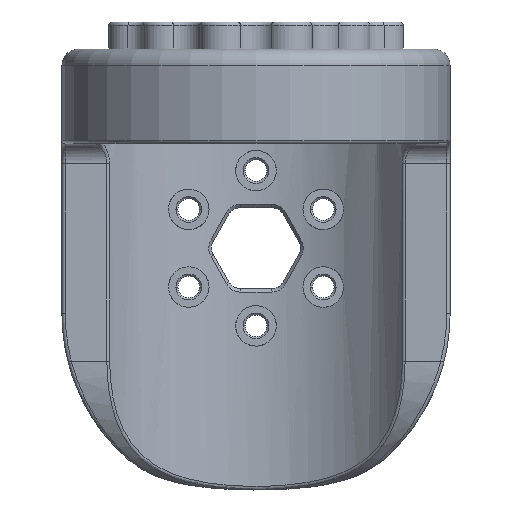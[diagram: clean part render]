
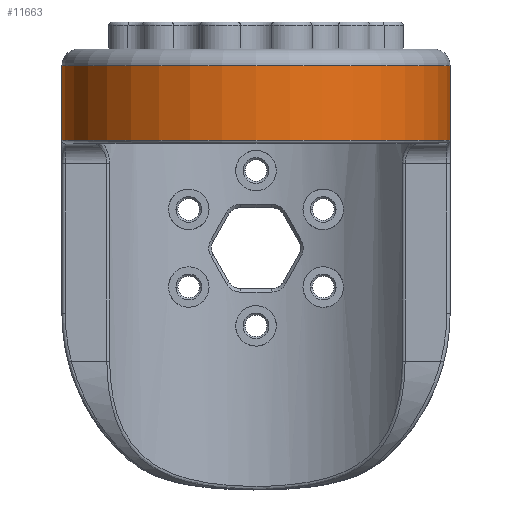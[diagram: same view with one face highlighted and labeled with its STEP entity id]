
A CAD part, front view. The second image highlights one B-rep face of the part: STEP entity #11663.
In plain terms, the highlighted cylindrical face has radius 28.75 mm (diameter 57.5 mm), a partial arc.
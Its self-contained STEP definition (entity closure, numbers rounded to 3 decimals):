
#824=DIRECTION('',(0.,0.,1.));
#825=VECTOR('',#824,11.);
#826=CARTESIAN_POINT('',(28.251,-50.789,17.981));
#827=LINE('',#826,#825);
#1512=DIRECTION('',(0.,0.,1.));
#1513=VECTOR('',#1512,11.);
#1514=CARTESIAN_POINT('',(-29.249,-50.789,
17.981));
#1515=LINE('',#1514,#1513);
#1867=CARTESIAN_POINT('',(-0.499,-50.789,
17.981));
#1868=DIRECTION('',(0.,0.,-1.));
#1869=DIRECTION('',(1.,0.,0.));
#1870=AXIS2_PLACEMENT_3D('',#1867,#1868,#1869);
#1875=CARTESIAN_POINT('',(-0.499,-50.789,
28.981));
#1876=DIRECTION('',(0.,0.,-1.));
#1877=DIRECTION('',(1.,0.,0.));
#1878=AXIS2_PLACEMENT_3D('',#1875,#1876,#1877);
#9158=CARTESIAN_POINT('',(-29.249,-50.789,
28.981));
#9160=VERTEX_POINT('',#9158);
#9166=CARTESIAN_POINT('',(28.251,-50.789,28.981));
#9167=VERTEX_POINT('',#9166);
#9712=CARTESIAN_POINT('',(-29.249,-50.789,
17.981));
#9714=VERTEX_POINT('',#9712);
#9748=CARTESIAN_POINT('',(28.251,-50.789,17.981));
#9749=VERTEX_POINT('',#9748);
#11651=CARTESIAN_POINT('',(-0.499,-50.789,
31.481));
#11652=DIRECTION('',(0.,0.,1.));
#11653=DIRECTION('',(1.,0.,0.));
#11654=AXIS2_PLACEMENT_3D('',#11651,#11652,#11653);
#11655=CYLINDRICAL_SURFACE('',#11654,28.75);
#11656=ORIENTED_EDGE('',*,*,#11644,.T.);
#11657=ORIENTED_EDGE('',*,*,#11256,.T.);
#11659=ORIENTED_EDGE('',*,*,#11658,.F.);
#11660=ORIENTED_EDGE('',*,*,#10481,.F.);
#11661=EDGE_LOOP('',(#11656,#11657,#11659,#11660));
#11662=FACE_OUTER_BOUND('',#11661,.F.);
#1871=CIRCLE('',#1870,28.75);
#1879=CIRCLE('',#1878,28.75);
#10481=EDGE_CURVE('',#9749,#9167,#827,.T.);
#11256=EDGE_CURVE('',#9714,#9160,#1515,.T.);
#11644=EDGE_CURVE('',#9749,#9714,#1871,.T.);
#11658=EDGE_CURVE('',#9167,#9160,#1879,.T.);
#11663=ADVANCED_FACE('',(#11662),#11655,.T.);
